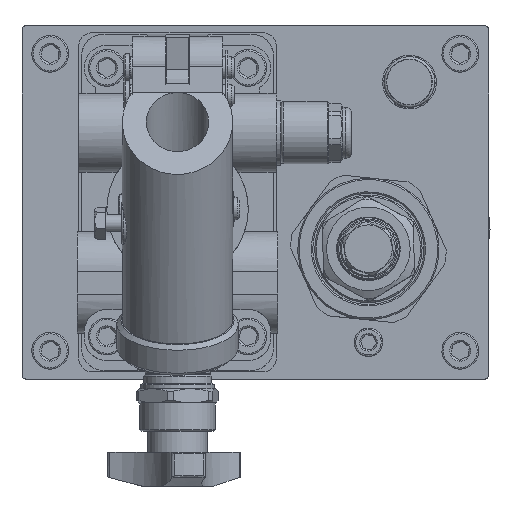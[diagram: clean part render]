
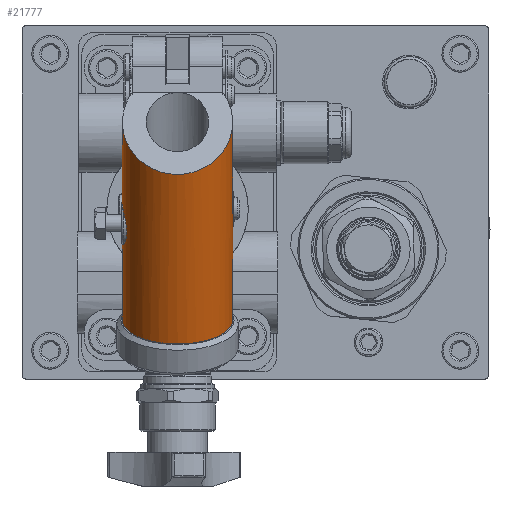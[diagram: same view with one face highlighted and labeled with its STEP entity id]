
A CAD part, top view. The second image highlights one B-rep face of the part: STEP entity #21777.
In plain terms, the highlighted cylindrical face has radius 19.5 mm (diameter 39 mm), a partial arc.
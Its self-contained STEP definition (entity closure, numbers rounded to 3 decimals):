
#97=ELLIPSE('',#27555,20.751,19.5);
#98=ELLIPSE('',#27556,22.517,19.5);
#99=ELLIPSE('',#27557,20.751,19.5);
#100=ELLIPSE('',#27558,20.751,19.5);
#101=ELLIPSE('',#27560,20.751,19.5);
#636=B_SPLINE_CURVE_WITH_KNOTS('',3,(#44946,#44947,#44948,#44949,#44950,
#44951),.UNSPECIFIED.,.F.,.F.,(4,1,1,4),(0.039,0.043,
0.045,0.047),.UNSPECIFIED.);
#637=B_SPLINE_CURVE_WITH_KNOTS('',3,(#44953,#44954,#44955,#44956,#44957),
 .UNSPECIFIED.,.F.,.F.,(4,1,4),(0.032,0.036,0.039),
 .UNSPECIFIED.);
#638=B_SPLINE_CURVE_WITH_KNOTS('',3,(#44959,#44960,#44961,#44962,#44963,
#44964,#44965),.UNSPECIFIED.,.F.,.F.,(4,1,1,1,4),(0.015,0.019,
0.024,0.028,0.032),.UNSPECIFIED.);
#639=B_SPLINE_CURVE_WITH_KNOTS('',3,(#44967,#44968,#44969,#44970,#44971),
 .UNSPECIFIED.,.F.,.F.,(4,1,4),(0.009,0.012,0.015),
 .UNSPECIFIED.);
#640=B_SPLINE_CURVE_WITH_KNOTS('',3,(#44973,#44974,#44975,#44976,#44977),
 .UNSPECIFIED.,.F.,.F.,(4,1,4),(0.,0.004,0.009),
 .UNSPECIFIED.);
#2050=LINE('',#44931,#3461);
#2051=LINE('',#44936,#3462);
#2052=LINE('',#44940,#3463);
#2053=LINE('',#44944,#3464);
#2054=LINE('',#44978,#3465);
#2055=LINE('',#44982,#3466);
#2056=LINE('',#44986,#3467);
#3461=VECTOR('',#33642,1000.);
#3462=VECTOR('',#33645,1000.);
#3463=VECTOR('',#33648,1000.);
#3464=VECTOR('',#33651,1000.);
#3465=VECTOR('',#33652,1000.);
#3466=VECTOR('',#33655,1000.);
#3467=VECTOR('',#33658,1000.);
#8952=ORIENTED_EDGE('',*,*,#12576,.F.);
#8953=ORIENTED_EDGE('',*,*,#12577,.T.);
#8954=ORIENTED_EDGE('',*,*,#12578,.T.);
#8955=ORIENTED_EDGE('',*,*,#12579,.T.);
#8956=ORIENTED_EDGE('',*,*,#12580,.F.);
#8957=ORIENTED_EDGE('',*,*,#12581,.T.);
#8958=ORIENTED_EDGE('',*,*,#12582,.F.);
#8959=ORIENTED_EDGE('',*,*,#12583,.F.);
#8960=ORIENTED_EDGE('',*,*,#12584,.F.);
#8961=ORIENTED_EDGE('',*,*,#12585,.F.);
#8962=ORIENTED_EDGE('',*,*,#12586,.F.);
#8963=ORIENTED_EDGE('',*,*,#12587,.F.);
#8964=ORIENTED_EDGE('',*,*,#12588,.F.);
#8965=ORIENTED_EDGE('',*,*,#12589,.F.);
#8966=ORIENTED_EDGE('',*,*,#12590,.T.);
#8967=ORIENTED_EDGE('',*,*,#12591,.T.);
#8968=ORIENTED_EDGE('',*,*,#12592,.T.);
#8969=ORIENTED_EDGE('',*,*,#12593,.F.);
#12576=EDGE_CURVE('',#18788,#18789,#2050,.T.);
#12577=EDGE_CURVE('',#18788,#18790,#97,.T.);
#12578=EDGE_CURVE('',#18790,#18791,#2051,.F.);
#12579=EDGE_CURVE('',#18791,#18792,#98,.T.);
#12580=EDGE_CURVE('',#18793,#18792,#2052,.F.);
#12581=EDGE_CURVE('',#18793,#18794,#99,.T.);
#12582=EDGE_CURVE('',#18795,#18794,#2053,.F.);
#12583=EDGE_CURVE('',#18796,#18795,#636,.T.);
#12584=EDGE_CURVE('',#18797,#18796,#637,.T.);
#12585=EDGE_CURVE('',#18798,#18797,#638,.T.);
#12586=EDGE_CURVE('',#18799,#18798,#639,.T.);
#12587=EDGE_CURVE('',#18795,#18799,#640,.T.);
#12588=EDGE_CURVE('',#18800,#18795,#2054,.F.);
#12589=EDGE_CURVE('',#18801,#18800,#100,.T.);
#12590=EDGE_CURVE('',#18801,#18802,#2055,.T.);
#12591=EDGE_CURVE('',#18802,#18803,#14156,.T.);
#12592=EDGE_CURVE('',#18803,#18804,#2056,.F.);
#12593=EDGE_CURVE('',#18789,#18804,#101,.T.);
#14156=CIRCLE('',#27559,19.5);
#15717=EDGE_LOOP('',(#8952,#8953,#8954,#8955,#8956,#8957,#8958,#8959,#8960,
#8961,#8962,#8963,#8964,#8965,#8966,#8967,#8968,#8969));
#16357=CYLINDRICAL_SURFACE('',#27554,19.5);
#18788=VERTEX_POINT('',#44932);
#18789=VERTEX_POINT('',#44933);
#18790=VERTEX_POINT('',#44935);
#18791=VERTEX_POINT('',#44937);
#18792=VERTEX_POINT('',#44939);
#18793=VERTEX_POINT('',#44941);
#18794=VERTEX_POINT('',#44943);
#18795=VERTEX_POINT('',#44945);
#18796=VERTEX_POINT('',#44952);
#18797=VERTEX_POINT('',#44958);
#18798=VERTEX_POINT('',#44966);
#18799=VERTEX_POINT('',#44972);
#18800=VERTEX_POINT('',#44979);
#18801=VERTEX_POINT('',#44981);
#18802=VERTEX_POINT('',#44983);
#18803=VERTEX_POINT('',#44985);
#18804=VERTEX_POINT('',#44987);
#20449=FACE_BOUND('',#15717,.T.);
#21777=ADVANCED_FACE('',(#20449),#16357,.T.);
#27554=AXIS2_PLACEMENT_3D('',#44930,#33640,#33641);
#27555=AXIS2_PLACEMENT_3D('',#44934,#33643,#33644);
#27556=AXIS2_PLACEMENT_3D('',#44938,#33646,#33647);
#27557=AXIS2_PLACEMENT_3D('',#44942,#33649,#33650);
#27558=AXIS2_PLACEMENT_3D('',#44980,#33653,#33654);
#27559=AXIS2_PLACEMENT_3D('',#44984,#33656,#33657);
#27560=AXIS2_PLACEMENT_3D('',#44988,#33659,#33660);
#33640=DIRECTION('',(0.,-0.903,-0.429));
#33641=DIRECTION('',(0.,0.429,-0.903));
#33642=DIRECTION('',(0.,-0.903,-0.429));
#33643=DIRECTION('',(0.,0.996,0.094));
#33644=DIRECTION('',(0.,0.094,-0.996));
#33645=DIRECTION('',(0.,-0.903,-0.429));
#33646=DIRECTION('',(0.,-0.568,-0.823));
#33647=DIRECTION('',(0.,-0.823,0.568));
#33648=DIRECTION('',(0.,-0.903,-0.429));
#33649=DIRECTION('',(0.,0.996,0.094));
#33650=DIRECTION('',(0.,0.094,-0.996));
#33651=DIRECTION('',(0.,-0.903,-0.429));
#33652=DIRECTION('',(0.,-0.903,-0.429));
#33653=DIRECTION('',(0.,0.702,0.712));
#33654=DIRECTION('',(0.,-0.712,0.702));
#33655=DIRECTION('',(0.,-0.903,-0.429));
#33656=DIRECTION('',(0.,0.903,0.429));
#33657=DIRECTION('',(0.,-0.429,0.903));
#33658=DIRECTION('',(0.,-0.903,-0.429));
#33659=DIRECTION('',(0.,0.702,0.712));
#33660=DIRECTION('',(0.,-0.712,0.702));
#44930=CARTESIAN_POINT('',(-27.5,96.574,157.001));
#44931=CARTESIAN_POINT('',(-9.5,99.789,150.225));
#44932=CARTESIAN_POINT('',(-9.5,71.222,136.671));
#44933=CARTESIAN_POINT('',(-9.5,24.914,114.702));
#44934=CARTESIAN_POINT('',(-27.5,70.473,144.618));
#44935=CARTESIAN_POINT('',(-11.5,71.585,132.808));
#44936=CARTESIAN_POINT('',(-11.5,101.352,146.93));
#44937=CARTESIAN_POINT('',(-11.5,101.352,146.93));
#44938=CARTESIAN_POINT('',(-27.5,90.76,154.242));
#44939=CARTESIAN_POINT('',(-43.5,101.352,146.93));
#44940=CARTESIAN_POINT('',(-43.5,101.352,146.93));
#44941=CARTESIAN_POINT('',(-43.5,71.585,132.808));
#44942=CARTESIAN_POINT('',(-27.5,70.473,144.618));
#44943=CARTESIAN_POINT('',(-45.5,71.222,136.671));
#44944=CARTESIAN_POINT('',(-45.5,99.789,150.225));
#44945=CARTESIAN_POINT('',(-45.5,58.229,130.507));
#44946=CARTESIAN_POINT('',(-46.75,62.513,137.396));
#44947=CARTESIAN_POINT('',(-46.54,62.535,135.968));
#44948=CARTESIAN_POINT('',(-46.056,61.946,133.838));
#44949=CARTESIAN_POINT('',(-45.589,60.084,131.619));
#44950=CARTESIAN_POINT('',(-45.5,58.889,130.82));
#44951=CARTESIAN_POINT('',(-45.5,58.229,130.507));
#44952=CARTESIAN_POINT('',(-46.75,62.513,137.396));
#44953=CARTESIAN_POINT('',(-46.75,59.845,143.02));
#44954=CARTESIAN_POINT('',(-46.907,60.663,142.331));
#44955=CARTESIAN_POINT('',(-47.093,62.,140.602));
#44956=CARTESIAN_POINT('',(-46.906,62.497,138.457));
#44957=CARTESIAN_POINT('',(-46.75,62.513,137.396));
#44958=CARTESIAN_POINT('',(-46.75,59.845,143.02));
#44959=CARTESIAN_POINT('',(-46.75,47.515,137.17));
#44960=CARTESIAN_POINT('',(-46.539,47.493,138.608));
#44961=CARTESIAN_POINT('',(-45.892,48.271,141.424));
#44962=CARTESIAN_POINT('',(-45.304,51.607,144.449));
#44963=CARTESIAN_POINT('',(-45.892,56.072,145.126));
#44964=CARTESIAN_POINT('',(-46.538,58.744,143.947));
#44965=CARTESIAN_POINT('',(-46.75,59.845,143.02));
#44966=CARTESIAN_POINT('',(-46.75,47.515,137.17));
#44967=CARTESIAN_POINT('',(-46.75,50.183,131.546));
#44968=CARTESIAN_POINT('',(-46.905,49.375,132.227));
#44969=CARTESIAN_POINT('',(-47.094,48.027,133.963));
#44970=CARTESIAN_POINT('',(-46.907,47.531,136.103));
#44971=CARTESIAN_POINT('',(-46.75,47.515,137.17));
#44972=CARTESIAN_POINT('',(-46.75,50.183,131.546));
#44973=CARTESIAN_POINT('',(-45.5,58.229,130.507));
#44974=CARTESIAN_POINT('',(-45.5,56.909,129.881));
#44975=CARTESIAN_POINT('',(-45.89,53.976,129.44));
#44976=CARTESIAN_POINT('',(-46.541,51.271,130.631));
#44977=CARTESIAN_POINT('',(-46.75,50.183,131.546));
#44978=CARTESIAN_POINT('',(-45.5,99.789,150.225));
#44979=CARTESIAN_POINT('',(-45.5,24.914,114.702));
#44980=CARTESIAN_POINT('',(-27.5,19.233,120.308));
#44981=CARTESIAN_POINT('',(-35.,32.868,106.853));
#44982=CARTESIAN_POINT('',(-35.,104.289,140.738));
#44983=CARTESIAN_POINT('',(-35.,28.397,104.732));
#44984=CARTESIAN_POINT('',(-27.5,20.682,120.995));
#44985=CARTESIAN_POINT('',(-20.,28.397,104.732));
#44986=CARTESIAN_POINT('',(-20.,104.289,140.738));
#44987=CARTESIAN_POINT('',(-20.,32.868,106.853));
#44988=CARTESIAN_POINT('',(-27.5,19.233,120.308));
